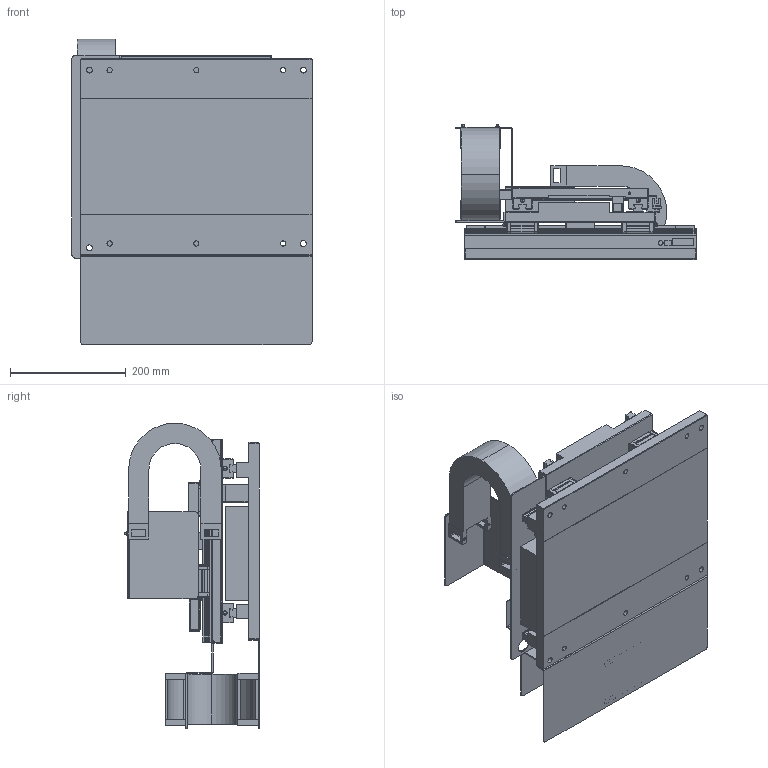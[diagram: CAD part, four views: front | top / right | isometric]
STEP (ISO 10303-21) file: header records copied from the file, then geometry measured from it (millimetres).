
FILE_DESCRIPTION (( 'STEP AP214' ), '1' );
FILE_NAME ('NST-D10B310A3BPNA_#2.00_0.STEP', '2021-03-19T05:25:46', ( '' ), ( '' ), 'SwSTEP 2.0', 'SolidWorks 2018', '' );
FILE_SCHEMA (( 'AUTOMOTIVE_DESIGN' ));
Length unit declared in the file: millimetre
Products named in the file (6): AUA01560; 14GK0160; AUA01570; 14GK0150; NST-D10B310A3BPNA_#2.00_0; AUA01580
Assembly tree (5 placements, depth 2):
  NST-D10B310A3BPNA_#2.00_0
    AUA01560
    AUA01570
    AUA01580
    14GK0150
    14GK0160
Bounding box: 415 x 233 x 528.28 mm (x, y, z)
Volume: 10435955.6 mm3; surface area: 1712074.3 mm2
Topology: 53 solids, 53 shells, 2049 faces, 5302 edges, 3387 vertices
Faces by surface type: plane 1518, cylinder 493, cone 18, sphere 16, bspline 4
Entity records: 83014 total; most frequent: CARTESIAN_POINT 10972, ORIENTED_EDGE 10504, DIRECTION 10341, EDGE_CURVE 5252, VECTOR 4177, LINE 4177, VERTEX_POINT 3371, AXIS2_PLACEMENT_3D 3082
